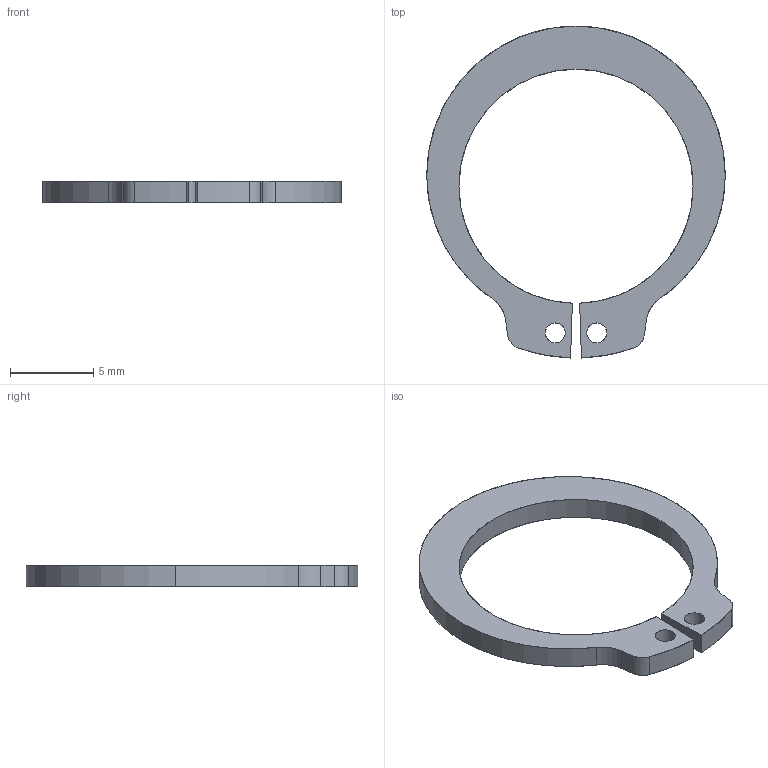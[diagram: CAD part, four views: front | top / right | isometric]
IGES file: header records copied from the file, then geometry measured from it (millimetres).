
Start section: SolidWorks IGES file using analytic representation for surfaces
Global section: file name: D:\Neil Abroug\Bureau\circlips_infrared.IGS; native system: SolidWorks 2007; preprocessor: SolidWorks 2007; author: Neil ABROUG; date: 080518.162753; units: millimetre
Bounding box: 17.98 x 19.99 x 1.3 mm (x, y, z)
Surface area: 374.8 mm2 (no closed solid volume)
Topology: 0 solids, 0 shells, 22 faces, 320 edges, 320 vertices
Faces by surface type: revolution 16, bspline 6
